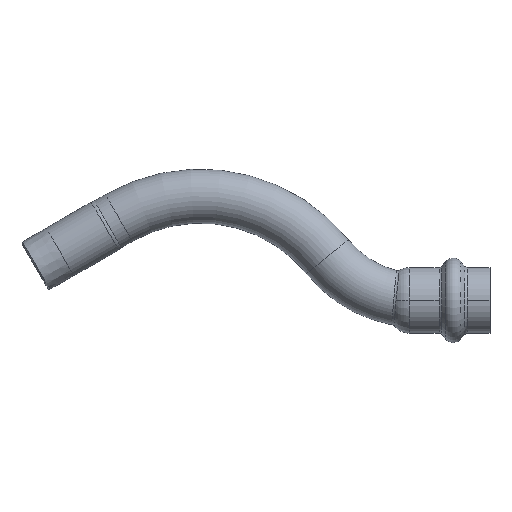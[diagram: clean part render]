
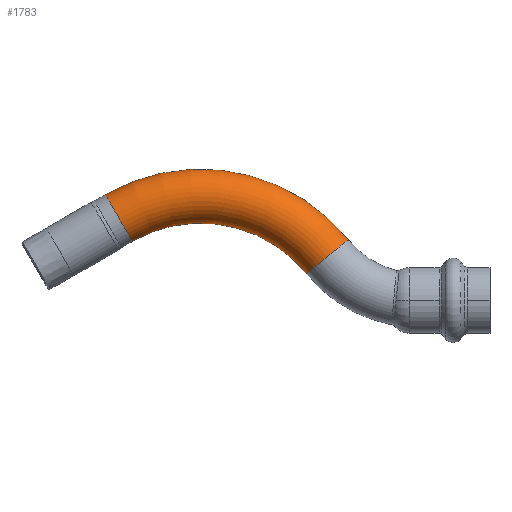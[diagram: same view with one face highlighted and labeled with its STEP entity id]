
A CAD part, top view. The second image highlights one B-rep face of the part: STEP entity #1783.
In plain terms, the highlighted toroidal (fillet/blend) face has major radius 44.5 mm and minor radius 7.35 mm.
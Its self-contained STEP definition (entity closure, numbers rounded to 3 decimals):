
#122 = VERTEX_POINT ( 'NONE', #1562 ) ;
#148 = ORIENTED_EDGE ( 'NONE', *, *, #2037, .T. ) ;
#151 = EDGE_CURVE ( 'NONE', #1478, #617, #1802, .T. ) ;
#225 = AXIS2_PLACEMENT_3D ( 'NONE', #710, #1929, #880 ) ;
#288 = CARTESIAN_POINT ( 'NONE',  ( -44.283, 11.88, 0. ) ) ;
#296 = AXIS2_PLACEMENT_3D ( 'NONE', #598, #601, #611 ) ;
#358 = DIRECTION ( 'NONE',  ( 0.629, -0.778, 0. ) ) ;
#364 = DIRECTION ( 'NONE',  ( 0., 0., -1. ) ) ;
#383 = DIRECTION ( 'NONE',  ( 1., 0., 0. ) ) ;
#421 = ORIENTED_EDGE ( 'NONE', *, *, #151, .T. ) ;
#433 = AXIS2_PLACEMENT_3D ( 'NONE', #288, #358, #364 ) ;
#479 = CARTESIAN_POINT ( 'NONE',  ( -78.886, -16.1, 0. ) ) ;
#591 = TOROIDAL_SURFACE ( 'NONE', #1176, 44.5, 7.35 ) ;
#598 = CARTESIAN_POINT ( 'NONE',  ( -78.886, -16.1, 0. ) ) ;
#601 = DIRECTION ( 'NONE',  ( 0., 0., 1. ) ) ;
#611 = DIRECTION ( 'NONE',  ( 1., 0., 0. ) ) ;
#617 = VERTEX_POINT ( 'NONE', #1585 ) ;
#623 = DIRECTION ( 'NONE',  ( 0., 0., 1. ) ) ;
#637 = ORIENTED_EDGE ( 'NONE', *, *, #814, .F. ) ;
#710 = CARTESIAN_POINT ( 'NONE',  ( -101.136, 22.438, 0. ) ) ;
#713 = EDGE_LOOP ( 'NONE', ( #813, #148, #421, #637 ) ) ;
#813 = ORIENTED_EDGE ( 'NONE', *, *, #1330, .F. ) ;
#814 = EDGE_CURVE ( 'NONE', #2032, #617, #1576, .T. ) ;
#880 = DIRECTION ( 'NONE',  ( 0., 0., -1. ) ) ;
#997 = CARTESIAN_POINT ( 'NONE',  ( -49.998, 7.258, 0. ) ) ;
#1000 = DIRECTION ( 'NONE',  ( 0., 0., 1. ) ) ;
#1083 = CARTESIAN_POINT ( 'NONE',  ( -104.811, 28.803, 0. ) ) ;
#1176 = AXIS2_PLACEMENT_3D ( 'NONE', #479, #1000, #1256 ) ;
#1256 = DIRECTION ( 'NONE',  ( 1., 0., 0. ) ) ;
#1330 = EDGE_CURVE ( 'NONE', #122, #2032, #1692, .T. ) ;
#1478 = VERTEX_POINT ( 'NONE', #1083 ) ;
#1562 = CARTESIAN_POINT ( 'NONE',  ( -38.567, 16.501, 0. ) ) ;
#1576 = CIRCLE ( 'NONE', #296, 37.15 ) ;
#1585 = CARTESIAN_POINT ( 'NONE',  ( -97.461, 16.073, 0. ) ) ;
#1692 = CIRCLE ( 'NONE', #433, 7.35 ) ;
#1783 = ADVANCED_FACE ( 'NONE', ( #1910 ), #591, .T. ) ;
#1802 = CIRCLE ( 'NONE', #225, 7.35 ) ;
#1850 = AXIS2_PLACEMENT_3D ( 'NONE', #2115, #623, #383 ) ;
#1886 = CIRCLE ( 'NONE', #1850, 51.85 ) ;
#1910 = FACE_OUTER_BOUND ( 'NONE', #713, .T. ) ;
#1929 = DIRECTION ( 'NONE',  ( 0.866, 0.5, 0. ) ) ;
#2032 = VERTEX_POINT ( 'NONE', #997 ) ;
#2037 = EDGE_CURVE ( 'NONE', #122, #1478, #1886, .T. ) ;
#2115 = CARTESIAN_POINT ( 'NONE',  ( -78.886, -16.1, 0. ) ) ;
